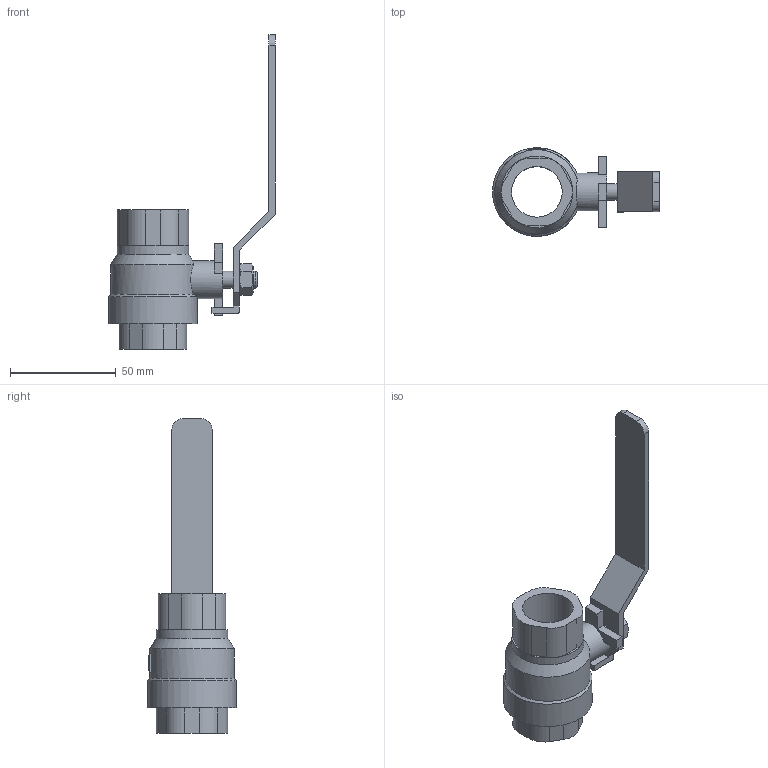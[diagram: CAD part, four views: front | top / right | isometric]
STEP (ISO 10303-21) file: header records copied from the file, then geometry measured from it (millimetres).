
FILE_DESCRIPTION(('STEP AP203'), '1');
FILE_NAME('7014-020-63', '', ('UNSPECIFIED'), ('UNSPECIFIED'), 'C3D Converter', 'C3D Toolkit', '');
FILE_SCHEMA(('CONFIG_CONTROL_DESIGN'));
Length unit declared in the file: millimetre
Bounding box: 78.95 x 41.98 x 149 mm (x, y, z)
Volume: 54553.2 mm3; surface area: 22575.1 mm2
Topology: 10 solids, 10 shells, 921 faces, 2687 edges, 1792 vertices
Faces by surface type: plane 894, cylinder 22, cone 4, torus 1
Full cylindrical faces by diameter (mm): 8 x2, 18 x1, 24 x1, 34 x1, 42 x1
Entity records: 38142 total; most frequent: CARTESIAN_POINT 6257, ORIENTED_EDGE 5354, DIRECTION 4566, EDGE_CURVE 2677, LINE 2590, VECTOR 2590, VERTEX_POINT 1792, AXIS2_PLACEMENT_3D 988
